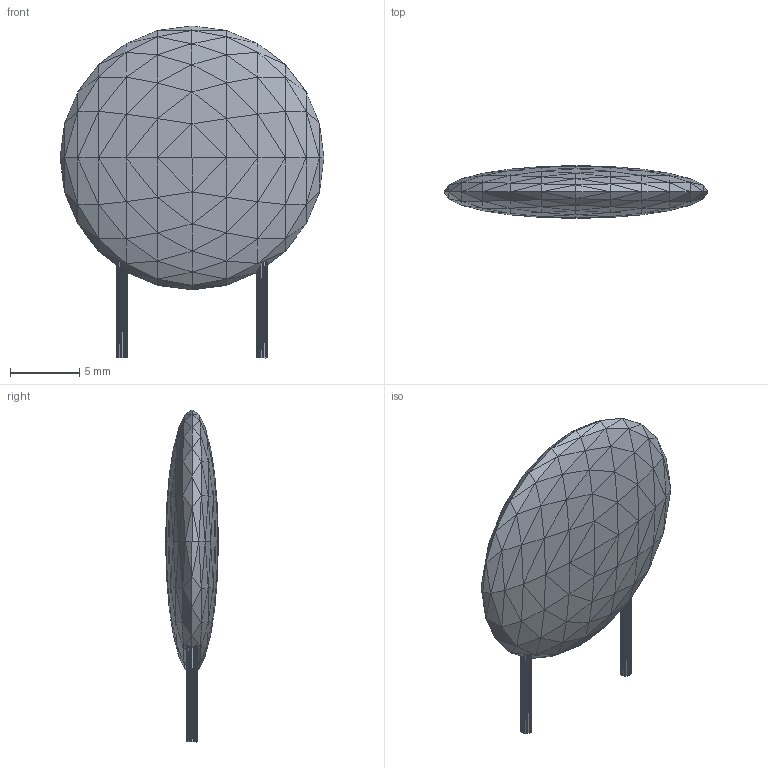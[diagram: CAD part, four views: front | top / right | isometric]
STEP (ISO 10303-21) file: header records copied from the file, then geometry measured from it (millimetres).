
FILE_DESCRIPTION(('HOOPS Exchange Step'),'2;1');
FILE_NAME('***.stp');
FILE_SCHEMA( ('AP242_MANAGED_MODEL_BASED_3D_ENGINEERING_MIM_LF {1 0 10303 442 1 1 4 }') );
Length unit declared in the file: inch
Products named in the file (4): CAPXLPF_2; CAPXLPF_3; CAPXLPF_4; CAPXLPF
Assembly tree (3 placements, depth 2):
  CAPXLPF
    CAPXLPF_2
    CAPXLPF_3
    CAPXLPF_4
Bounding box: 19.05 x 3.81 x 23.97 mm (x, y, z)
Surface area: 1302.7 mm2 (no closed solid volume)
Topology: 0 solids, 960 shells, 960 faces, 720 edges, 246 vertices
Faces by surface type: plane 960
Entity records: 14820 total; most frequent: ORIENTED_EDGE 2880, DIRECTION 2656, CARTESIAN_POINT 1934, AXIS2_PLACEMENT_3D 968, PLANE 960, EDGE_LOOP 960, FACE_BOUND 960, ADVANCED_FACE 960
